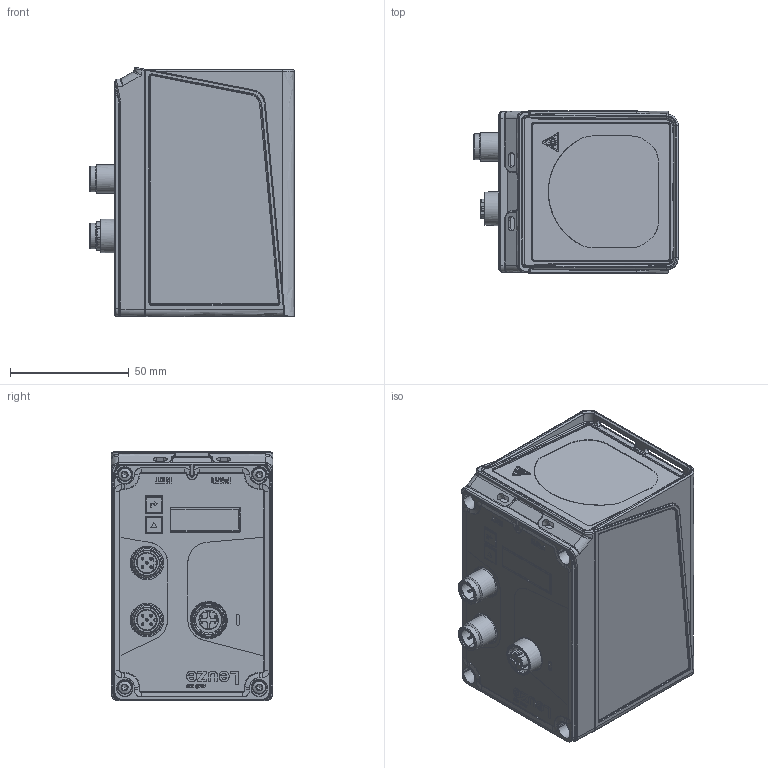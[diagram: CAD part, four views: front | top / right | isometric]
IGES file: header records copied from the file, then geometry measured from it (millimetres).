
Global section: file name: \\leuze.de\dfs01\Owen\User\jschwi\allgemeine_exporte\3DCAD_AMS100_SSI.igs; native system: NX V11.0; preprocessor: SIEMENS PLM Software NX 11.0; date: 20220203.115746; units: millimetre
Bounding box: 86.16 x 68 x 104.8 mm (x, y, z)
Surface area: 46873.7 mm2 (no closed solid volume)
Topology: 0 solids, 0 shells, 1947 faces, 11025 edges, 10913 vertices
Faces by surface type: bspline 1943, offset 4
